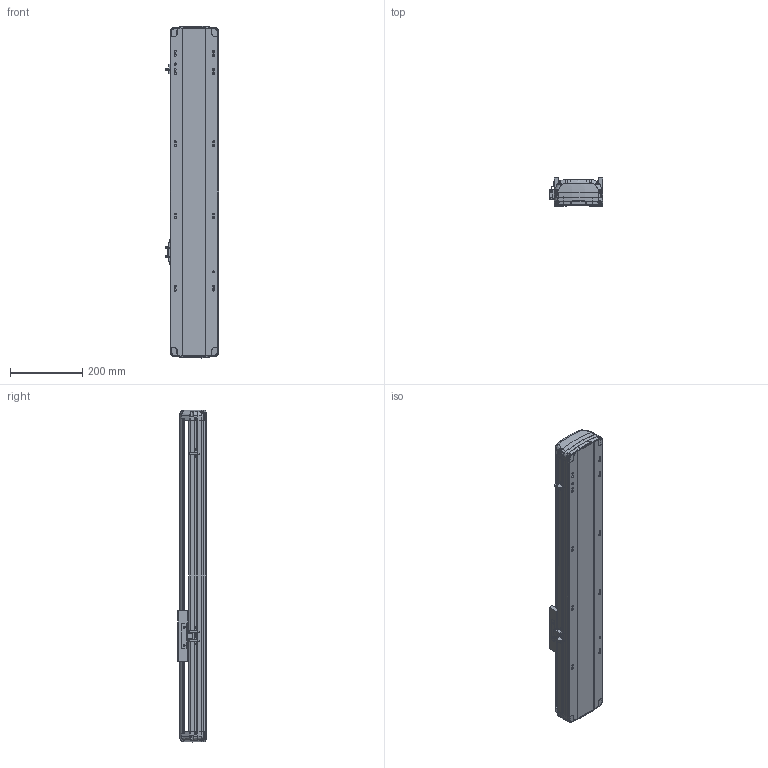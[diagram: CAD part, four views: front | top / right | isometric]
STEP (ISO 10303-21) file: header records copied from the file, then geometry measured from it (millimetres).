
FILE_DESCRIPTION (( 'STEP AP214' ), '1' );
FILE_NAME ('RTH14-XX-500-B-M20B-C4.STEP', '2025-10-24T08:36:29', ( 'Microsoft' ), ( 'Microsoft' ), 'SwSTEP 2.0', 'SolidWorks 2018', '' );
FILE_SCHEMA (( 'AUTOMOTIVE_DESIGN' ));
Length unit declared in the file: millimetre
Products named in the file (7): N_OMRON EE-SX672 传感器^RTH14-XX-XX-B-M20B-C4; N_RTH14-GY-001P^RTH14-XX-XX-B-M20B-C4; RTH14-XX-500-B-M20B-C4; N_RTH14-R-004-SFSR16賑釱^RTH14-XX-XX-B-M20B-C4; N_RTH13-L-012感应片（外置）^RTH14-XX-XX-B-M20B-C4; N_RTH14-B-011PB菁釱^RTH14-XX-XX-B-M20B-C4; N_RTH14-B-007B奻裔^RTH14-XX-XX-B-M20B-C4
Assembly tree (9 placements, depth 2):
  RTH14-XX-500-B-M20B-C4
    N_RTH14-B-011PB菁釱^RTH14-XX-XX-B-M20B-C4
    N_RTH14-B-007B奻裔^RTH14-XX-XX-B-M20B-C4
    N_RTH13-L-012感应片（外置）^RTH14-XX-XX-B-M20B-C4
    N_OMRON EE-SX672 传感器^RTH14-XX-XX-B-M20B-C4  x3
    N_RTH14-R-004-SFSR16賑釱^RTH14-XX-XX-B-M20B-C4
    N_RTH14-GY-001P^RTH14-XX-XX-B-M20B-C4  x2
Bounding box: 148.5 x 78.03 x 918.74 mm (x, y, z)
Volume: 3826573.6 mm3; surface area: 888993.5 mm2
Topology: 9 solids, 9 shells, 1918 faces, 5404 edges, 3518 vertices
Faces by surface type: plane 979, bspline 450, cylinder 425, cone 56, torus 8
Entity records: 46616 total; most frequent: CARTESIAN_POINT 20866, ORIENTED_EDGE 5824, DIRECTION 4275, EDGE_CURVE 2912, VERTEX_POINT 1904, VECTOR 1639, LINE 1639, AXIS2_PLACEMENT_3D 1318
